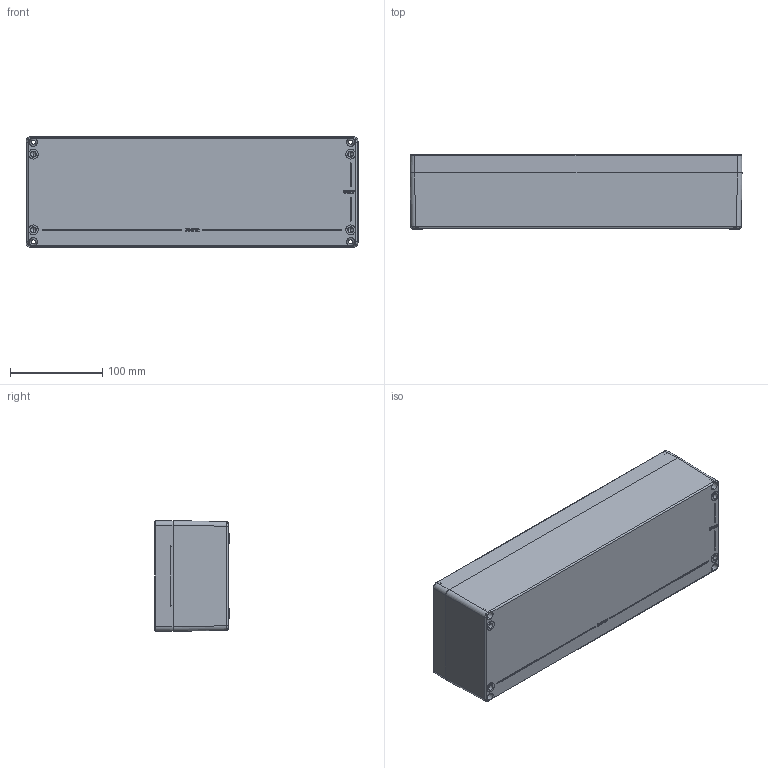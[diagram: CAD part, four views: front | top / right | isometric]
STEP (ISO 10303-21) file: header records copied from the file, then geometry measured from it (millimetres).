
FILE_DESCRIPTION (( 'STEP AP214' ), '1' );
FILE_NAME ('Zag 21.STEP', '2020-11-05T08:48:23', ( '' ), ( '' ), 'SwSTEP 2.0', 'SolidWorks 2020', '' );
FILE_SCHEMA (( 'AUTOMOTIVE_DESIGN' ));
Length unit declared in the file: millimetre
Products named in the file (3): Zag 21; Zag 21 Body; Zag 21 Lid
Assembly tree (2 placements, depth 2):
  Zag 21
    Zag 21 Body
    Zag 21 Lid
Bounding box: 360 x 81.2 x 120 mm (x, y, z)
Volume: 837560.6 mm3; surface area: 327399.5 mm2
Topology: 2 solids, 2 shells, 666 faces, 1764 edges, 1134 vertices
Faces by surface type: plane 309, cylinder 144, bspline 129, cone 72, torus 8, sphere 4
Entity records: 27216 total; most frequent: CARTESIAN_POINT 11390, ORIENTED_EDGE 3464, DIRECTION 2786, EDGE_CURVE 1732, VERTEX_POINT 1134, VECTOR 1022, LINE 1022, AXIS2_PLACEMENT_3D 882
